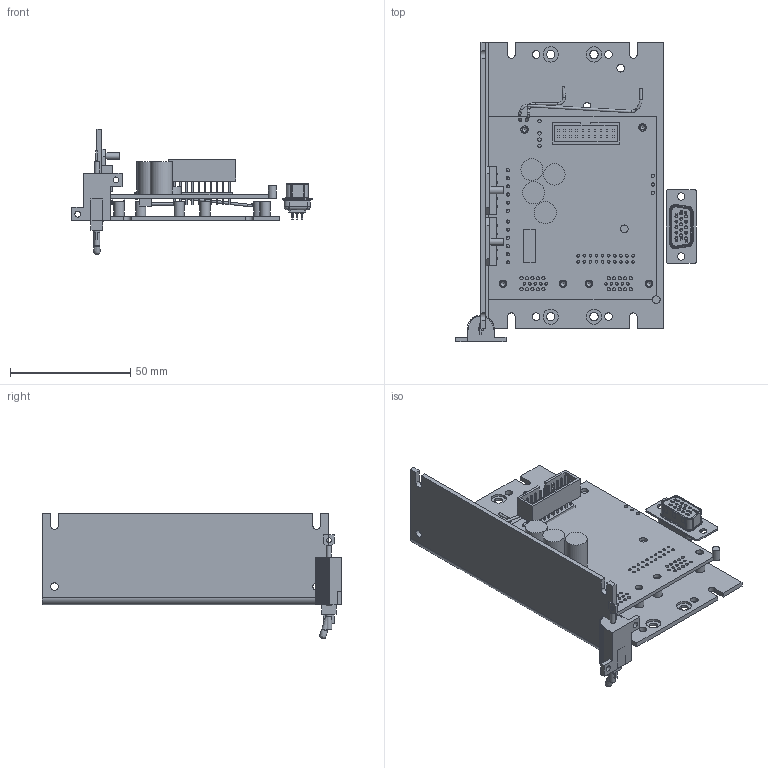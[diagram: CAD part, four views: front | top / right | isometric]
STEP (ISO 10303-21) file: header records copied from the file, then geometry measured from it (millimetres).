
FILE_DESCRIPTION(/* description */ ('Alibre Inc.'),/* implementation_level */ '2;1');
FILE_NAME(/* name */ 'export0',/* time_stamp */ '2008-04-01T14:52:13-07:00',/* author */ (''),/* organization */ (''),/* preprocessor_version */ 'ST-DEVELOPER v10',/* originating_system */ 'Alibre',/* authorisation */ '');
FILE_SCHEMA (('ALIBRE_SCHEMA','CONFIG_CONTROL_DESIGN'));
Products named in the file (29): ID_1
Bounding box: 100.24 x 124.78 x 52.1 mm (x, y, z)
Volume: 49535.1 mm3; surface area: 57327.7 mm2
Topology: 91 solids, 91 shells, 2140 faces, 5241 edges, 3452 vertices
Faces by surface type: plane 1363, cylinder 570, bspline 108, torus 74, cone 10, revolution 9, extrusion 6
Full cylindrical faces by diameter (mm): 0.013 x1, 1.016 x5, 1.092 x50, 1.346 x51, 2 x2, 2.032 x1, 2.1 x2, 2.156 x6, 2.4 x2, 2.489 x1, 2.616 x1, 2.819 x2, 2.87 x2, 3.175 x17, 3.505 x4, 3.81 x2, 4.216 x6, 5.842 x1, 5.944 x1, 6.35 x4, 8.875 x1, 9.144 x3
Entity records: 162609 total; most frequent: CARTESIAN_POINT 65021, ORIENTED_EDGE 13348, DIRECTION 12361, EDGE_CURVE 6674, VECTOR 5395, LINE 4965, VERTEX_POINT 4495, AXIS2_PLACEMENT_3D 4298
